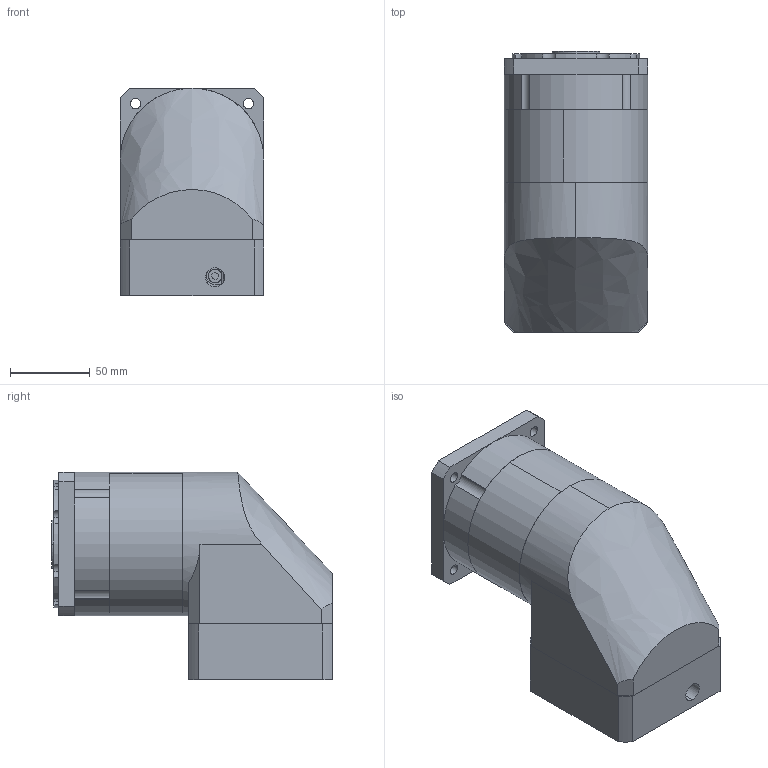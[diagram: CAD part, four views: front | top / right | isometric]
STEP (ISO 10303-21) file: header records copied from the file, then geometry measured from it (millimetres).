
FILE_DESCRIPTION (( 'STEP AP203' ), '1' );
FILE_NAME ('PVBF090-L2-19-70-90-输入孔18.STEP', '2024-07-26T09:07:43', ( 'Windows User' ), ( 'P R C' ), 'SwSTEP 2.0', 'SolidWorks 2016', '' );
FILE_SCHEMA (( 'CONFIG_CONTROL_DESIGN' ));
Length unit declared in the file: millimetre
Products named in the file (8): PVBF90-蟀諉啣-M5; PVBF90-薊粣ん; M5 x 20; 粣創-3206A 30x62x23.8_2; PVBF090-L2-19-70-90-输入孔18; PVBF90 眊极_揤翉; PVBF90 內齿圈-优化_二级内齿圈; PVBF90 上蓋版-孔输出18-B6_标准
Assembly tree (7 placements, depth 2):
  PVBF090-L2-19-70-90-输入孔18
    PVBF90 眊极_揤翉
    PVBF90 內齿圈-优化_二级内齿圈
    PVBF90 上蓋版-孔输出18-B6_标准
    PVBF90-蟀諉啣-M5
    PVBF90-薊粣ん
    M5 x 20
    粣創-3206A 30x62x23.8_2
Bounding box: 90 x 176 x 130 mm (x, y, z)
Volume: 1224329.8 mm3; surface area: 198315.1 mm2
Topology: 7 solids, 7 shells, 1321 faces, 3651 edges, 2410 vertices
Faces by surface type: plane 707, bspline 361, cylinder 227, cone 26
Entity records: 55759 total; most frequent: CARTESIAN_POINT 23255, ORIENTED_EDGE 7266, DIRECTION 5457, EDGE_CURVE 3633, VERTEX_POINT 2410, LINE 2137, VECTOR 2137, AXIS2_PLACEMENT_3D 1660
